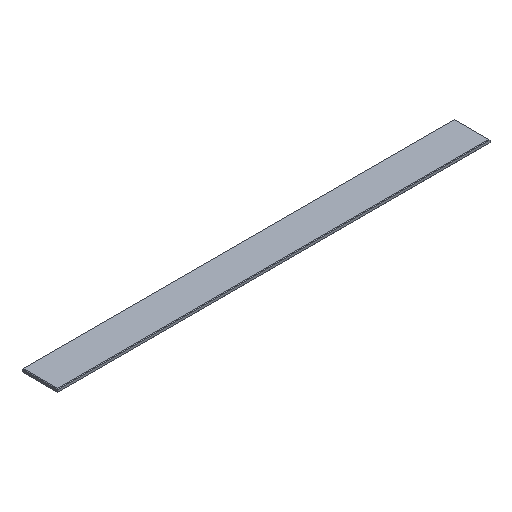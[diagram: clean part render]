
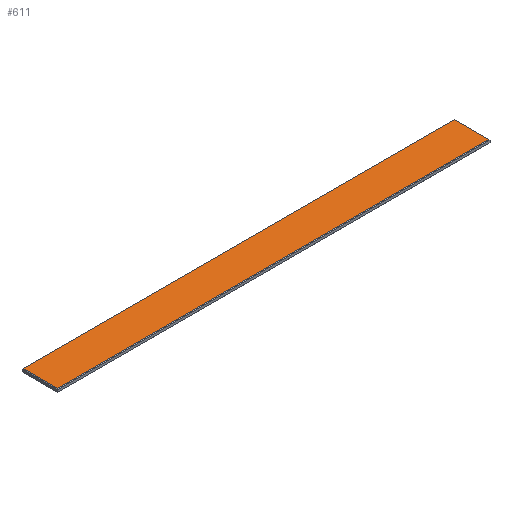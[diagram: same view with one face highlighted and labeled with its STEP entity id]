
A CAD part, isometric view. The second image highlights one B-rep face of the part: STEP entity #611.
In plain terms, the highlighted planar face has unit normal (0, 0, 1).
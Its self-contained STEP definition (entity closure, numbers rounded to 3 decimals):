
#361=DIRECTION('',(-1.,0.,0.));
#362=VECTOR('',#361,737.);
#363=CARTESIAN_POINT('',(368.5,29.5,3.));
#364=LINE('',#363,#362);
#368=DIRECTION('',(0.,1.,0.));
#369=VECTOR('',#368,59.);
#370=CARTESIAN_POINT('',(368.5,-29.5,3.));
#371=LINE('',#370,#369);
#375=DIRECTION('',(1.,0.,0.));
#376=VECTOR('',#375,737.);
#377=CARTESIAN_POINT('',(-368.5,-29.5,3.));
#378=LINE('',#377,#376);
#382=DIRECTION('',(0.,-1.,0.));
#383=VECTOR('',#382,59.);
#384=CARTESIAN_POINT('',(-368.5,29.5,3.));
#385=LINE('',#384,#383);
#400=CARTESIAN_POINT('',(368.5,29.5,3.));
#401=CARTESIAN_POINT('',(-368.5,29.5,3.));
#402=VERTEX_POINT('',#400);
#403=VERTEX_POINT('',#401);
#424=CARTESIAN_POINT('',(-368.5,-29.5,3.));
#425=CARTESIAN_POINT('',(368.5,-29.5,3.));
#426=VERTEX_POINT('',#424);
#427=VERTEX_POINT('',#425);
#599=CARTESIAN_POINT('',(0.,0.,3.));
#600=DIRECTION('',(0.,0.,1.));
#601=DIRECTION('',(1.,0.,0.));
#602=AXIS2_PLACEMENT_3D('',#599,#600,#601);
#603=PLANE('',#602);
#604=ORIENTED_EDGE('',*,*,#482,.F.);
#605=ORIENTED_EDGE('',*,*,#498,.F.);
#607=ORIENTED_EDGE('',*,*,#606,.F.);
#608=ORIENTED_EDGE('',*,*,#592,.F.);
#609=EDGE_LOOP('',(#604,#605,#607,#608));
#610=FACE_OUTER_BOUND('',#609,.F.);
#482=EDGE_CURVE('',#402,#403,#364,.T.);
#498=EDGE_CURVE('',#427,#402,#371,.T.);
#592=EDGE_CURVE('',#403,#426,#385,.T.);
#606=EDGE_CURVE('',#426,#427,#378,.T.);
#611=ADVANCED_FACE('',(#610),#603,.T.);
